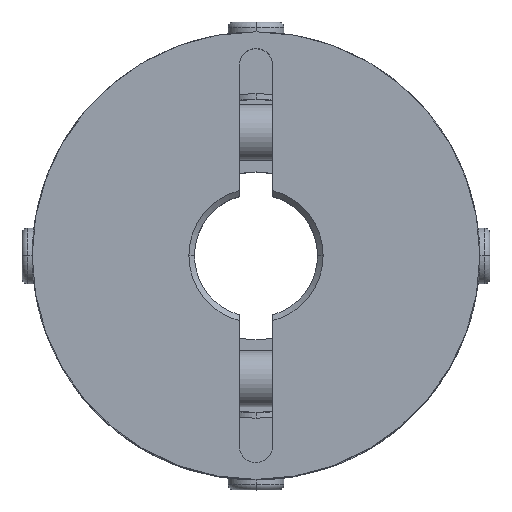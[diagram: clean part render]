
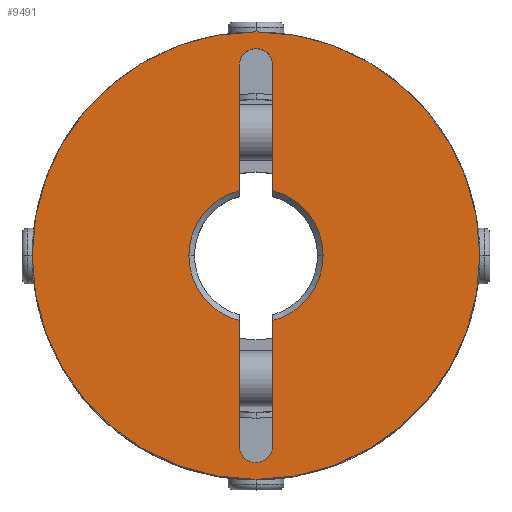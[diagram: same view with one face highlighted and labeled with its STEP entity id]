
A CAD part, top view. The second image highlights one B-rep face of the part: STEP entity #9491.
In plain terms, the highlighted planar face has unit normal (0, 0, 1).
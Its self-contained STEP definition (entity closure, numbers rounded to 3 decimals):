
#829=CARTESIAN_POINT('',(-20.0,0.,20.0));
#830=VERTEX_POINT('',#829);
#837=CARTESIAN_POINT('',(20.0,0.0,20.0));
#838=VERTEX_POINT('',#837);
#839=CARTESIAN_POINT('',(0.0,0.0,20.0));
#840=DIRECTION('',(0.0,0.0,-1.0));
#841=DIRECTION('',(1.0,0.0,0.0));
#842=AXIS2_PLACEMENT_3D('',#839,#840,#841);
#843=CIRCLE('',#842,20.0);
#844=EDGE_CURVE('',#830,#838,#843,.T.);
#1155=CARTESIAN_POINT('',(-1.061,18.061,20.0));
#1156=VERTEX_POINT('',#1155);
#1172=CARTESIAN_POINT('',(1.5,17.,20.0));
#1173=VERTEX_POINT('',#1172);
#1180=CARTESIAN_POINT('',(0.,17.,20.0));
#1181=DIRECTION('',(0.0,0.0,1.));
#1182=DIRECTION('',(0.707,0.707,0.0));
#1183=AXIS2_PLACEMENT_3D('',#1180,#1181,#1182);
#1184=CIRCLE('',#1183,1.5);
#1185=EDGE_CURVE('',#1173,#1156,#1184,.T.);
#1197=CARTESIAN_POINT('',(1.061,-18.061,20.0));
#1198=VERTEX_POINT('',#1197);
#1214=CARTESIAN_POINT('',(-1.5,-17.,20.0));
#1215=VERTEX_POINT('',#1214);
#1222=CARTESIAN_POINT('',(0.0,-17.,20.0));
#1223=DIRECTION('',(0.0,0.0,1.0));
#1224=DIRECTION('',(-0.707,-0.707,0.0));
#1225=AXIS2_PLACEMENT_3D('',#1222,#1223,#1224);
#1226=CIRCLE('',#1225,1.5);
#1227=EDGE_CURVE('',#1215,#1198,#1226,.T.);
#1237=CARTESIAN_POINT('',(-6.0,0.,20.0));
#1238=VERTEX_POINT('',#1237);
#1245=CARTESIAN_POINT('',(-1.5,-5.809,20.0));
#1246=VERTEX_POINT('',#1245);
#1247=CARTESIAN_POINT('',(0.0,0.0,20.0));
#1248=DIRECTION('',(0.0,0.0,1.0));
#1249=DIRECTION('',(-1.0,0.0,0.0));
#1250=AXIS2_PLACEMENT_3D('',#1247,#1248,#1249);
#1251=CIRCLE('',#1250,6.0);
#1252=EDGE_CURVE('',#1238,#1246,#1251,.T.);
#1276=CARTESIAN_POINT('',(6.0,0.,20.0));
#1277=VERTEX_POINT('',#1276);
#1284=CARTESIAN_POINT('',(1.5,5.809,20.0));
#1285=VERTEX_POINT('',#1284);
#1286=CARTESIAN_POINT('',(0.0,0.0,20.0));
#1287=DIRECTION('',(0.0,0.0,1.0));
#1288=DIRECTION('',(1.0,0.0,0.0));
#1289=AXIS2_PLACEMENT_3D('',#1286,#1287,#1288);
#1290=CIRCLE('',#1289,6.0);
#1291=EDGE_CURVE('',#1277,#1285,#1290,.T.);
#9296=CARTESIAN_POINT('',(-1.5,17.,20.0));
#9297=VERTEX_POINT('',#9296);
#9304=CARTESIAN_POINT('',(-1.5,5.809,20.0));
#9305=VERTEX_POINT('',#9304);
#9306=CARTESIAN_POINT('',(-1.5,5.809,20.0));
#9307=DIRECTION('',(0.0,1.0,0.0));
#9308=VECTOR('',#9307,11.191);
#9309=LINE('',#9306,#9308);
#9310=EDGE_CURVE('',#9305,#9297,#9309,.T.);
#9385=CARTESIAN_POINT('',(1.5,17.,20.0));
#9386=DIRECTION('',(0.0,-1.0,0.0));
#9387=VECTOR('',#9386,11.191);
#9388=LINE('',#9385,#9387);
#9389=EDGE_CURVE('',#1173,#1285,#9388,.T.);
#9407=CARTESIAN_POINT('',(1.5,-5.809,20.0));
#9408=VERTEX_POINT('',#9407);
#9422=CARTESIAN_POINT('',(0.0,0.0,20.0));
#9423=DIRECTION('',(0.0,0.0,1.0));
#9424=DIRECTION('',(1.0,0.0,0.0));
#9425=AXIS2_PLACEMENT_3D('',#9422,#9423,#9424);
#9426=CIRCLE('',#9425,6.0);
#9427=EDGE_CURVE('',#9408,#1277,#9426,.T.);
#9432=CARTESIAN_POINT('',(1.818,0.,20.0));
#9433=DIRECTION('',(0.0,0.0,1.0));
#9434=DIRECTION('',(1.0,0.0,0.0));
#9435=AXIS2_PLACEMENT_3D('',#9432,#9433,#9434);
#9436=PLANE('',#9435);
#9437=CARTESIAN_POINT('',(0.0,0.0,20.0));
#9438=DIRECTION('',(0.0,0.0,-1.0));
#9439=DIRECTION('',(1.0,0.0,0.0));
#9440=AXIS2_PLACEMENT_3D('',#9437,#9438,#9439);
#9441=CIRCLE('',#9440,20.0);
#9442=EDGE_CURVE('',#838,#830,#9441,.T.);
#9443=ORIENTED_EDGE('',*,*,#9442,.F.);
#9444=ORIENTED_EDGE('',*,*,#844,.F.);
#9445=EDGE_LOOP('',(#9443,#9444));
#9446=FACE_OUTER_BOUND('',#9445,.T.);
#9447=ORIENTED_EDGE('',*,*,#9427,.F.);
#9448=CARTESIAN_POINT('',(1.5,-17.,20.0));
#9449=VERTEX_POINT('',#9448);
#9450=CARTESIAN_POINT('',(1.5,-5.809,20.0));
#9451=DIRECTION('',(0.0,-1.0,0.0));
#9452=VECTOR('',#9451,11.191);
#9453=LINE('',#9450,#9452);
#9454=EDGE_CURVE('',#9408,#9449,#9453,.T.);
#9455=ORIENTED_EDGE('',*,*,#9454,.T.);
#9456=CARTESIAN_POINT('',(0.0,-17.,20.0));
#9457=DIRECTION('',(0.0,0.0,1.0));
#9458=DIRECTION('',(-0.707,-0.707,0.0));
#9459=AXIS2_PLACEMENT_3D('',#9456,#9457,#9458);
#9460=CIRCLE('',#9459,1.5);
#9461=EDGE_CURVE('',#1198,#9449,#9460,.T.);
#9462=ORIENTED_EDGE('',*,*,#9461,.F.);
#9463=ORIENTED_EDGE('',*,*,#1227,.F.);
#9464=CARTESIAN_POINT('',(-1.5,-17.,20.0));
#9465=DIRECTION('',(0.0,1.0,0.0));
#9466=VECTOR('',#9465,11.191);
#9467=LINE('',#9464,#9466);
#9468=EDGE_CURVE('',#1215,#1246,#9467,.T.);
#9469=ORIENTED_EDGE('',*,*,#9468,.T.);
#9470=ORIENTED_EDGE('',*,*,#1252,.F.);
#9471=CARTESIAN_POINT('',(0.0,0.0,20.0));
#9472=DIRECTION('',(0.0,0.0,1.0));
#9473=DIRECTION('',(-1.0,0.0,0.0));
#9474=AXIS2_PLACEMENT_3D('',#9471,#9472,#9473);
#9475=CIRCLE('',#9474,6.0);
#9476=EDGE_CURVE('',#9305,#1238,#9475,.T.);
#9477=ORIENTED_EDGE('',*,*,#9476,.F.);
#9478=ORIENTED_EDGE('',*,*,#9310,.T.);
#9479=CARTESIAN_POINT('',(0.,17.,20.0));
#9480=DIRECTION('',(0.0,0.0,1.));
#9481=DIRECTION('',(0.707,0.707,0.0));
#9482=AXIS2_PLACEMENT_3D('',#9479,#9480,#9481);
#9483=CIRCLE('',#9482,1.5);
#9484=EDGE_CURVE('',#1156,#9297,#9483,.T.);
#9485=ORIENTED_EDGE('',*,*,#9484,.F.);
#9486=ORIENTED_EDGE('',*,*,#1185,.F.);
#9487=ORIENTED_EDGE('',*,*,#9389,.T.);
#9488=ORIENTED_EDGE('',*,*,#1291,.F.);
#9489=EDGE_LOOP('',(#9447,#9455,#9462,#9463,#9469,#9470,#9477,#9478,#9485,#9486,#9487,#9488));
#9490=FACE_BOUND('',#9489,.T.);
#9491=ADVANCED_FACE('',(#9446,#9490),#9436,.T.);
